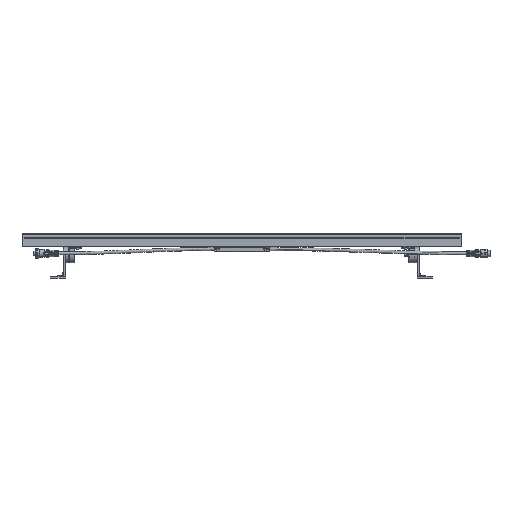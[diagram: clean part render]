
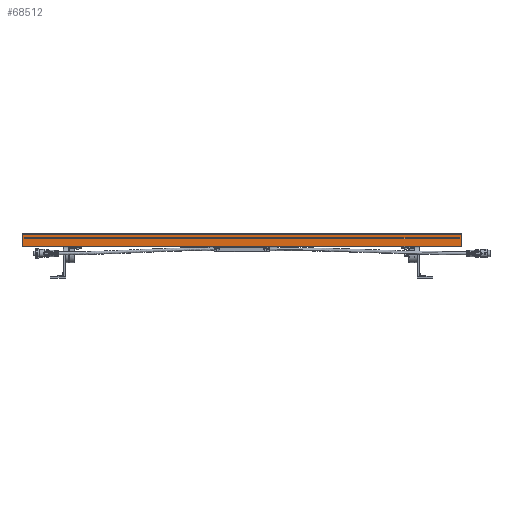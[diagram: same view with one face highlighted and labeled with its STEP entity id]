
A CAD part, top view. The second image highlights one B-rep face of the part: STEP entity #68512.
In plain terms, the highlighted planar face has unit normal (0, 0, 1).
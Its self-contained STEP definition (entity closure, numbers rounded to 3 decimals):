
#502 = CARTESIAN_POINT ( 'NONE',  ( 495., 52.5, 27.5 ) ) ;
#1086 = EDGE_CURVE ( 'NONE', #97762, #43195, #99146, .T. ) ;
#2699 = DIRECTION ( 'NONE',  ( 0., -1., 0. ) ) ;
#5580 = DIRECTION ( 'NONE',  ( 1., 0., 0. ) ) ;
#8145 = CARTESIAN_POINT ( 'NONE',  ( 499.8, 52.5, 27.5 ) ) ;
#8863 = VECTOR ( 'NONE', #56901, 1000. ) ;
#10650 = CARTESIAN_POINT ( 'NONE',  ( -495., 52.5, 27.5 ) ) ;
#11813 = DIRECTION ( 'NONE',  ( -1., 0., 0. ) ) ;
#12709 = FACE_BOUND ( 'NONE', #45074, .T. ) ;
#12894 = VERTEX_POINT ( 'NONE', #37998 ) ;
#13246 = DIRECTION ( 'NONE',  ( 0., 0., 1. ) ) ;
#13536 = EDGE_CURVE ( 'NONE', #83518, #30496, #49514, .T. ) ;
#16164 = CARTESIAN_POINT ( 'NONE',  ( 495., 69.9, 27.5 ) ) ;
#16752 = ORIENTED_EDGE ( 'NONE', *, *, #17831, .T. ) ;
#17210 = VECTOR ( 'NONE', #43068, 1000. ) ;
#17219 = CARTESIAN_POINT ( 'NONE',  ( -499.8, 80.5, 27.5 ) ) ;
#17831 = EDGE_CURVE ( 'NONE', #39381, #103489, #57402, .T. ) ;
#18912 = CARTESIAN_POINT ( 'NONE',  ( 495., 80.5, 27.5 ) ) ;
#19882 = ORIENTED_EDGE ( 'NONE', *, *, #21367, .T. ) ;
#20642 = LINE ( 'NONE', #85947, #90771 ) ;
#21367 = EDGE_CURVE ( 'NONE', #103489, #81030, #89671, .T. ) ;
#22651 = VECTOR ( 'NONE', #34969, 1000. ) ;
#22697 = CARTESIAN_POINT ( 'NONE',  ( -495., 52.5, 27.5 ) ) ;
#26422 = VECTOR ( 'NONE', #48304, 1000. ) ;
#26425 = CARTESIAN_POINT ( 'NONE',  ( 495., 69.9, 27.5 ) ) ;
#26580 = ORIENTED_EDGE ( 'NONE', *, *, #91763, .T. ) ;
#28765 = CARTESIAN_POINT ( 'NONE',  ( -495., 52.5, 27.5 ) ) ;
#30496 = VERTEX_POINT ( 'NONE', #42462 ) ;
#31176 = LINE ( 'NONE', #16164, #26422 ) ;
#31329 = CARTESIAN_POINT ( 'NONE',  ( -499.8, 52.5, 27.5 ) ) ;
#34198 = VECTOR ( 'NONE', #2699, 1000. ) ;
#34406 = VERTEX_POINT ( 'NONE', #26425 ) ;
#34416 = ORIENTED_EDGE ( 'NONE', *, *, #72818, .T. ) ;
#34526 = CARTESIAN_POINT ( 'NONE',  ( -495., 72.3, 27.5 ) ) ;
#34969 = DIRECTION ( 'NONE',  ( 0., -1., 0. ) ) ;
#37218 = DIRECTION ( 'NONE',  ( 0., -1., 0. ) ) ;
#37505 = CARTESIAN_POINT ( 'NONE',  ( -495., 80.5, 27.5 ) ) ;
#37998 = CARTESIAN_POINT ( 'NONE',  ( 499.8, 80.5, 27.5 ) ) ;
#39302 = LINE ( 'NONE', #22697, #48436 ) ;
#39381 = VERTEX_POINT ( 'NONE', #76201 ) ;
#42462 = CARTESIAN_POINT ( 'NONE',  ( -495., 69.9, 27.5 ) ) ;
#42999 = CARTESIAN_POINT ( 'NONE',  ( 499.8, 52.5, 27.5 ) ) ;
#43068 = DIRECTION ( 'NONE',  ( 0., -1., 0. ) ) ;
#43195 = VERTEX_POINT ( 'NONE', #502 ) ;
#43519 = LINE ( 'NONE', #18912, #22651 ) ;
#45074 = EDGE_LOOP ( 'NONE', ( #102765, #26580, #86870, #79574 ) ) ;
#45692 = EDGE_LOOP ( 'NONE', ( #19882, #90488, #46355, #96994, #34416, #16752 ) ) ;
#46355 = ORIENTED_EDGE ( 'NONE', *, *, #1086, .F. ) ;
#48304 = DIRECTION ( 'NONE',  ( -1., 0., 0. ) ) ;
#48436 = VECTOR ( 'NONE', #5580, 1000. ) ;
#49380 = LINE ( 'NONE', #90576, #62322 ) ;
#49514 = LINE ( 'NONE', #50051, #17210 ) ;
#49921 = DIRECTION ( 'NONE',  ( 1., 0., 0. ) ) ;
#50051 = CARTESIAN_POINT ( 'NONE',  ( -495., 80.5, 27.5 ) ) ;
#52213 = CARTESIAN_POINT ( 'NONE',  ( -499.8, 52.5, 27.5 ) ) ;
#52530 = CARTESIAN_POINT ( 'NONE',  ( 495., 72.3, 27.5 ) ) ;
#52587 = EDGE_CURVE ( 'NONE', #12894, #97762, #20642, .T. ) ;
#53282 = VERTEX_POINT ( 'NONE', #52530 ) ;
#56901 = DIRECTION ( 'NONE',  ( -1., 0., 0. ) ) ;
#57402 = LINE ( 'NONE', #17219, #34198 ) ;
#62322 = VECTOR ( 'NONE', #49921, 1000. ) ;
#63530 = FACE_OUTER_BOUND ( 'NONE', #45692, .T. ) ;
#64402 = VECTOR ( 'NONE', #11813, 1000. ) ;
#68512 = ADVANCED_FACE ( 'NONE', ( #12709, #63530 ), #96216, .T. ) ;
#72818 = EDGE_CURVE ( 'NONE', #12894, #39381, #77124, .T. ) ;
#76201 = CARTESIAN_POINT ( 'NONE',  ( -499.8, 80.5, 27.5 ) ) ;
#77124 = LINE ( 'NONE', #37505, #64402 ) ;
#78996 = EDGE_CURVE ( 'NONE', #53282, #34406, #43519, .T. ) ;
#79574 = ORIENTED_EDGE ( 'NONE', *, *, #100234, .T. ) ;
#79577 = DIRECTION ( 'NONE',  ( 0., 1., 0. ) ) ;
#79944 = EDGE_CURVE ( 'NONE', #81030, #43195, #39302, .T. ) ;
#80569 = DIRECTION ( 'NONE',  ( 1., 0., 0. ) ) ;
#81030 = VERTEX_POINT ( 'NONE', #10650 ) ;
#83518 = VERTEX_POINT ( 'NONE', #34526 ) ;
#85247 = AXIS2_PLACEMENT_3D ( 'NONE', #28765, #13246, #79577 ) ;
#85947 = CARTESIAN_POINT ( 'NONE',  ( 499.8, 80.5, 27.5 ) ) ;
#86870 = ORIENTED_EDGE ( 'NONE', *, *, #13536, .F. ) ;
#89671 = LINE ( 'NONE', #31329, #91242 ) ;
#90488 = ORIENTED_EDGE ( 'NONE', *, *, #79944, .T. ) ;
#90576 = CARTESIAN_POINT ( 'NONE',  ( -495., 72.3, 27.5 ) ) ;
#90771 = VECTOR ( 'NONE', #37218, 1000. ) ;
#91242 = VECTOR ( 'NONE', #80569, 1000. ) ;
#91763 = EDGE_CURVE ( 'NONE', #34406, #30496, #31176, .T. ) ;
#96216 = PLANE ( 'NONE',  #85247 ) ;
#96994 = ORIENTED_EDGE ( 'NONE', *, *, #52587, .F. ) ;
#97762 = VERTEX_POINT ( 'NONE', #42999 ) ;
#99146 = LINE ( 'NONE', #8145, #8863 ) ;
#100234 = EDGE_CURVE ( 'NONE', #83518, #53282, #49380, .T. ) ;
#102765 = ORIENTED_EDGE ( 'NONE', *, *, #78996, .T. ) ;
#103489 = VERTEX_POINT ( 'NONE', #52213 ) ;
